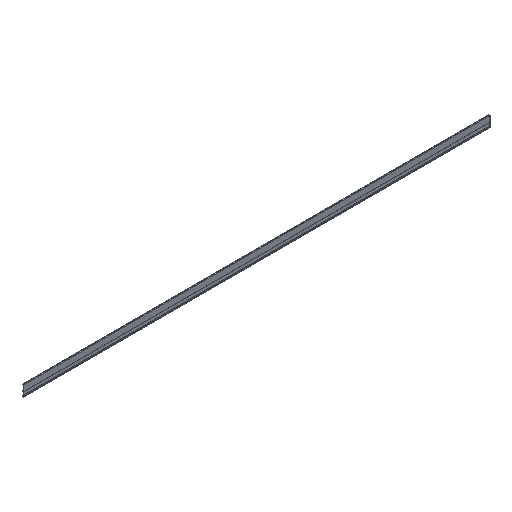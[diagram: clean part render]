
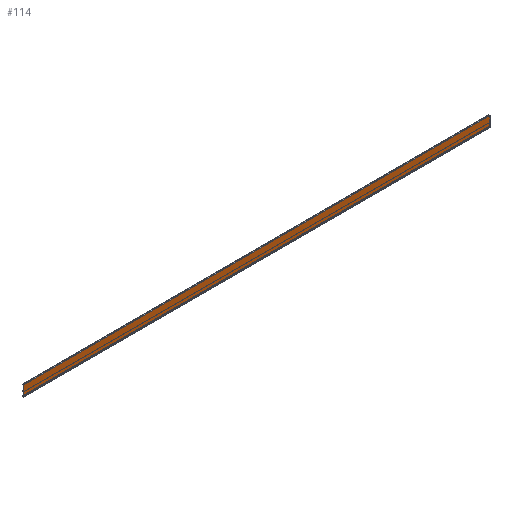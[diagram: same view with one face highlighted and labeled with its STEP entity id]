
A CAD part, isometric view. The second image highlights one B-rep face of the part: STEP entity #114.
In plain terms, the highlighted planar face has unit normal (0, -1, 0).
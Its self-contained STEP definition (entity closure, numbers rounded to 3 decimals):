
#114=ADVANCED_FACE('',(#278),#279,.T.);
#278=FACE_OUTER_BOUND('',#493,.T.);
#279=PLANE('',#494);
#493=EDGE_LOOP('',(#787,#788,#789,#790));
#494=AXIS2_PLACEMENT_3D('',#791,#792,#793);
#787=ORIENTED_EDGE('',*,*,#1376,.T.);
#788=ORIENTED_EDGE('',*,*,#1377,.F.);
#789=ORIENTED_EDGE('',*,*,#1348,.F.);
#790=ORIENTED_EDGE('',*,*,#1378,.T.);
#791=CARTESIAN_POINT('',(0.0,-11.5,0.0));
#792=DIRECTION('',(0.0,-1.0,0.0));
#793=DIRECTION('',(0.0,0.0,-1.0));
#1348=EDGE_CURVE('',#1623,#1625,#1626,.T.);
#1376=EDGE_CURVE('',#1674,#1675,#1676,.T.);
#1377=EDGE_CURVE('',#1625,#1675,#1677,.T.);
#1378=EDGE_CURVE('',#1623,#1674,#1678,.T.);
#1623=VERTEX_POINT('',#2027);
#1625=VERTEX_POINT('',#2030);
#1626=LINE('',#2031,#2032);
#1674=VERTEX_POINT('',#2104);
#1675=VERTEX_POINT('',#2105);
#1676=LINE('',#2106,#2107);
#1677=LINE('',#2108,#2109);
#1678=LINE('',#2110,#2111);
#2027=CARTESIAN_POINT('',(0.0,-11.5,-79.5));
#2030=CARTESIAN_POINT('',(0.0,-11.5,0.0));
#2031=CARTESIAN_POINT('',(0.0,-11.5,-61.0));
#2032=VECTOR('',#2483,1.0);
#2104=CARTESIAN_POINT('',(3500.0,-11.5,-79.5));
#2105=CARTESIAN_POINT('',(3500.0,-11.5,0.0));
#2106=CARTESIAN_POINT('',(3500.0,-11.5,-15.25));
#2107=VECTOR('',#2508,1.0);
#2108=CARTESIAN_POINT('',(0.0,-11.5,0.0));
#2109=VECTOR('',#2509,1.0);
#2110=CARTESIAN_POINT('',(0.0,-11.5,-79.5));
#2111=VECTOR('',#2510,1.0);
#2483=DIRECTION('',(0.0,0.0,1.0));
#2508=DIRECTION('',(0.0,0.0,1.0));
#2509=DIRECTION('',(1.0,0.0,0.0));
#2510=DIRECTION('',(1.0,0.0,0.0));
